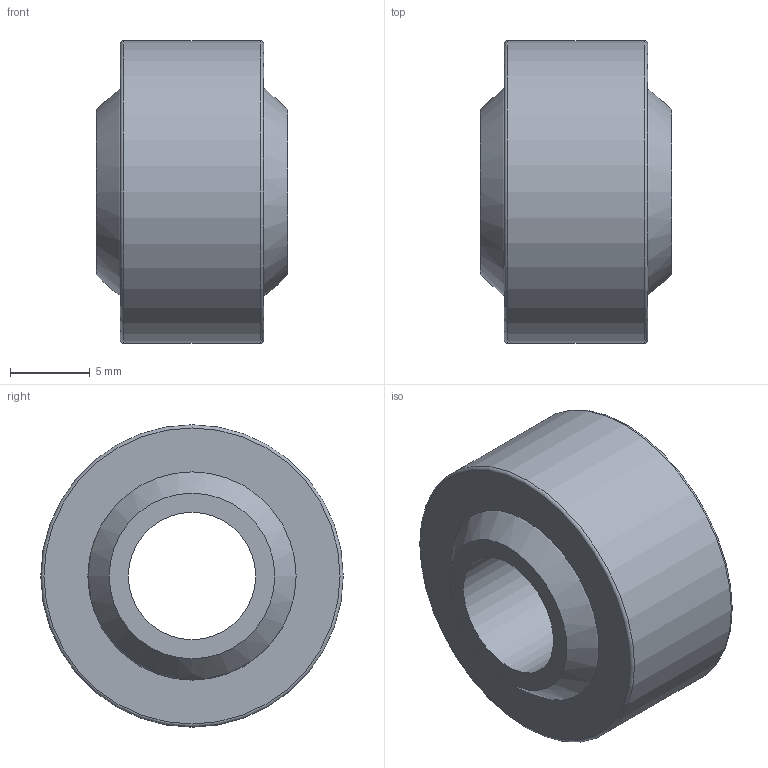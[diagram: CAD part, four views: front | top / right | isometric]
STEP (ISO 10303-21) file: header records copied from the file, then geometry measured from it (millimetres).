
FILE_DESCRIPTION( ( 'STEP AP203' ), '1' );
FILE_NAME( 'C:/Temp/Ganter_Step_05_03_2020/data/3_6/gn_648_8/gn_648_8_w/Ball joint GN 648.8-8-19-W.stp', '2020-03-12T14:14:29', ( 'License CC BY-ND 4.0' ), ( 'CADENAS' ), ' ', 'PARTsolutions', ' ' );
FILE_SCHEMA( ( 'CONFIG_CONTROL_DESIGN' ) );
Length unit declared in the file: millimetre
Products named in the file (3): Ball joint GN 648.8-8-19-W; _Ball joint GN 648.8-8-19-W-2; _Ball joint GN 648.8-8-19-W-1
Assembly tree (2 placements, depth 2):
  Ball joint GN 648.8-8-19-W
    _Ball joint GN 648.8-8-19-W-2
    _Ball joint GN 648.8-8-19-W-1
Bounding box: 12 x 19 x 19 mm (x, y, z)
Volume: 2280.2 mm3; surface area: 2243.7 mm2
Topology: 2 solids, 2 shells, 10 faces, 16 edges, 10 vertices
Faces by surface type: plane 4, sphere 2, torus 2, cylinder 2
Full cylindrical faces by diameter (mm): 8 x1, 19 x1
Entity records: 320 total; most frequent: DIRECTION 46, CARTESIAN_POINT 33, AXIS2_PLACEMENT_3D 23, EDGE_LOOP 20, ORIENTED_EDGE 20, FACE_OUTER_BOUND 16, CC_DESIGN_PERSON_AND_ORGANIZATION_ASSIGNMENT 13, ADVANCED_FACE 10
